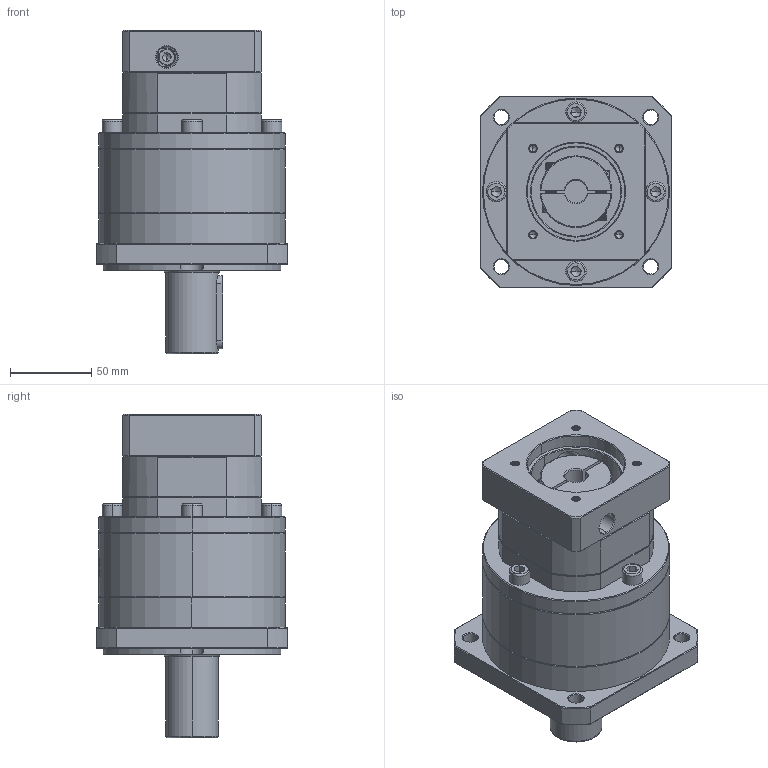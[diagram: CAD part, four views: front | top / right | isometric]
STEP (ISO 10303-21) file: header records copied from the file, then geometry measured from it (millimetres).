
FILE_DESCRIPTION (( 'STEP AP214' ), '1' );
FILE_NAME ('ZF120A-D32-L2-P2-14-60-75-M5.step', '2023-08-27T05:59:18', ( '' ), ( '' ), 'SwSTEP 2.0', 'SolidWorks 2016', '' );
FILE_SCHEMA (( 'AUTOMOTIVE_DESIGN' ));
Length unit declared in the file: millimetre
Products named in the file (1): ZF120A-D32-L2-P2-14-60-75-M5
Bounding box: 118 x 118 x 199 mm (x, y, z)
Volume: 1303754.7 mm3; surface area: 127856.2 mm2
Topology: 5 solids, 6 shells, 2216 faces, 5885 edges, 3768 vertices
Faces by surface type: plane 1060, bspline 419, cylinder 402, cone 320, torus 15
Entity records: 121496 total; most frequent: CARTESIAN_POINT 47537, ORIENTED_EDGE 11710, DIRECTION 8444, EDGE_CURVE 5855, VERTEX_POINT 3768, VECTOR 3102, LINE 3102, AXIS2_PLACEMENT_3D 2671
